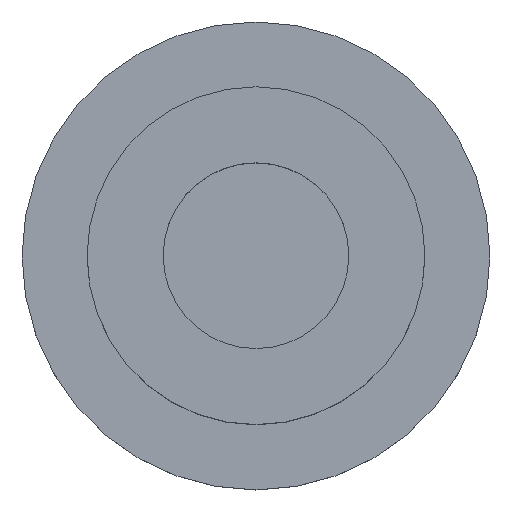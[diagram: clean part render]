
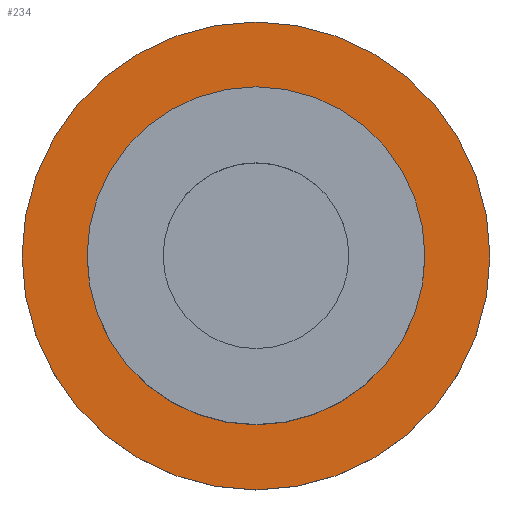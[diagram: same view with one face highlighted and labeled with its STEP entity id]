
A CAD part, top view. The second image highlights one B-rep face of the part: STEP entity #234.
In plain terms, the highlighted planar face has unit normal (0, 0, 1).
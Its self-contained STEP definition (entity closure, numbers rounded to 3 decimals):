
#2 = VERTEX_POINT ( 'NONE', #199 ) ;
#11 = VERTEX_POINT ( 'NONE', #39 ) ;
#19 = AXIS2_PLACEMENT_3D ( 'NONE', #272, #212, #154 ) ;
#21 = DIRECTION ( 'NONE',  ( 1., 0., 0. ) ) ;
#27 = CIRCLE ( 'NONE', #163, 5.775 ) ;
#39 = CARTESIAN_POINT ( 'NONE',  ( -8., 0., 0. ) ) ;
#41 = EDGE_CURVE ( 'NONE', #257, #2, #27, .T. ) ;
#59 = CARTESIAN_POINT ( 'NONE',  ( -5.775, 0., 0. ) ) ;
#86 = AXIS2_PLACEMENT_3D ( 'NONE', #214, #238, #339 ) ;
#91 = AXIS2_PLACEMENT_3D ( 'NONE', #251, #195, #329 ) ;
#104 = FACE_BOUND ( 'NONE', #127, .T. ) ;
#106 = CARTESIAN_POINT ( 'NONE',  ( 8., 0., 0. ) ) ;
#127 = EDGE_LOOP ( 'NONE', ( #221, #203 ) ) ;
#129 = CIRCLE ( 'NONE', #19, 5.775 ) ;
#149 = FACE_OUTER_BOUND ( 'NONE', #273, .T. ) ;
#154 = DIRECTION ( 'NONE',  ( 1., 0., 0. ) ) ;
#163 = AXIS2_PLACEMENT_3D ( 'NONE', #233, #175, #209 ) ;
#170 = ORIENTED_EDGE ( 'NONE', *, *, #280, .T. ) ;
#175 = DIRECTION ( 'NONE',  ( 0., 0., 1. ) ) ;
#176 = AXIS2_PLACEMENT_3D ( 'NONE', #292, #310, #21 ) ;
#191 = VERTEX_POINT ( 'NONE', #106 ) ;
#195 = DIRECTION ( 'NONE',  ( 0., 0., 1. ) ) ;
#199 = CARTESIAN_POINT ( 'NONE',  ( 5.775, 0., 0. ) ) ;
#203 = ORIENTED_EDGE ( 'NONE', *, *, #207, .F. ) ;
#207 = EDGE_CURVE ( 'NONE', #2, #257, #129, .T. ) ;
#209 = DIRECTION ( 'NONE',  ( 1., 0., 0. ) ) ;
#212 = DIRECTION ( 'NONE',  ( 0., 0., 1. ) ) ;
#214 = CARTESIAN_POINT ( 'NONE',  ( 0., 0., 0. ) ) ;
#220 = EDGE_CURVE ( 'NONE', #11, #191, #326, .T. ) ;
#221 = ORIENTED_EDGE ( 'NONE', *, *, #41, .F. ) ;
#228 = CIRCLE ( 'NONE', #91, 8. ) ;
#233 = CARTESIAN_POINT ( 'NONE',  ( 0., 0., 0. ) ) ;
#234 = ADVANCED_FACE ( 'NONE', ( #104, #149 ), #266, .T. ) ;
#238 = DIRECTION ( 'NONE',  ( 0., 0., 1. ) ) ;
#251 = CARTESIAN_POINT ( 'NONE',  ( 0., 0., 0. ) ) ;
#257 = VERTEX_POINT ( 'NONE', #59 ) ;
#266 = PLANE ( 'NONE',  #86 ) ;
#272 = CARTESIAN_POINT ( 'NONE',  ( 0., 0., 0. ) ) ;
#273 = EDGE_LOOP ( 'NONE', ( #170, #320 ) ) ;
#280 = EDGE_CURVE ( 'NONE', #191, #11, #228, .T. ) ;
#292 = CARTESIAN_POINT ( 'NONE',  ( 0., 0., 0. ) ) ;
#310 = DIRECTION ( 'NONE',  ( 0., 0., 1. ) ) ;
#320 = ORIENTED_EDGE ( 'NONE', *, *, #220, .T. ) ;
#326 = CIRCLE ( 'NONE', #176, 8. ) ;
#329 = DIRECTION ( 'NONE',  ( 1., 0., 0. ) ) ;
#339 = DIRECTION ( 'NONE',  ( 1., 0., 0. ) ) ;
